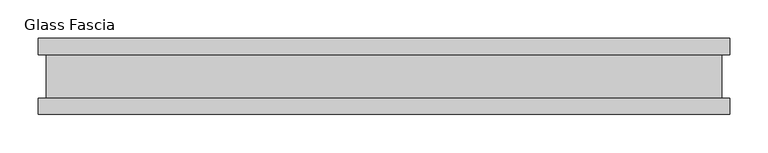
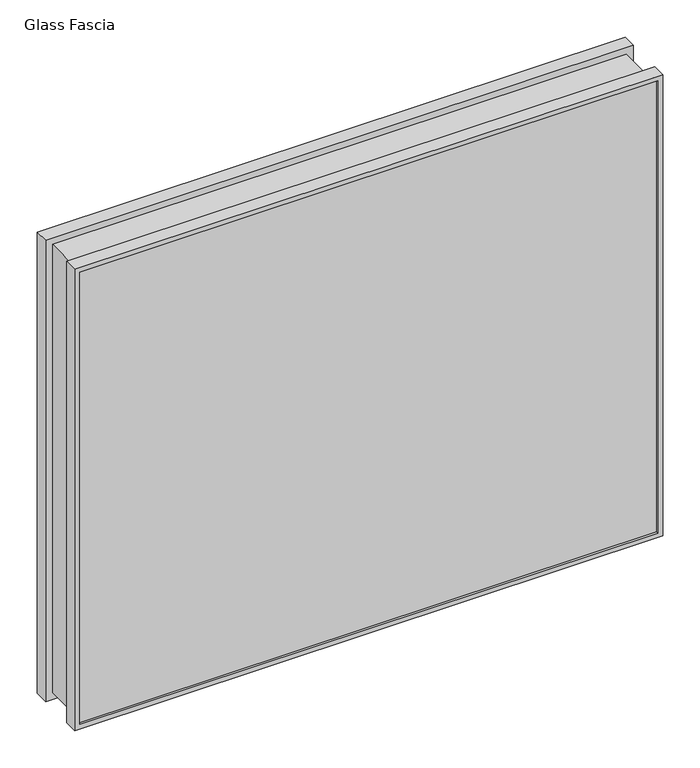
"""IFC4 building model written with IfcOpenShell, lengths in millimetres: proxy geometry, Panel-Fascia-Teknion-Altos-Glass : Glass Fascia."""

from ifc_helpers import new_model, si_unit, frame, origin, place, context, project, spatial, polyline, ellipse_curve, outline, extrude, source, transform, mapped, element, save
from ifc_brep_helpers import plane_surface, cylinder_surface, advanced_brep


def glass_fascia_7fd7f416(model_context):
    return source(origin(), model_context, "Body", "SolidModel", [
        advanced_brep(
        [(454.0619976, 50.0558594, 756.793), (454.0619976, 28.2698798, 756.793), (454.0619976, 28.2698798, 3.175), (454.0619976, 50.0558594, 3.175), (446.6267898, 47.1322551, 749.3577922), (446.6267898, 50.0558594, 749.3577922), (446.6267898, 50.0558594, 10.6102078), (446.6267898, 47.1322551, 10.6102078), (451.9094713, 41.1791301, 754.6404737), (451.9094713, 47.1322551, 754.6404737), (451.9094713, 47.1322551, 5.3275263), (451.9094713, 41.1791301, 5.3275263), (446.1045822, -40.9277344, 748.8355845), (446.1045822, 41.1791301, 748.8355845), (446.1045822, 41.1791301, 11.1324155), (446.1045822, -40.9277344, 11.1324155), (451.9094713, -46.8808594, 754.6404737), (451.9094713, -40.9277344, 754.6404737), (451.9094713, -40.9277344, 5.3275263), (451.9094713, -46.8808594, 5.3275263), (446.6267898, -50.0558594, 749.3577922), (446.6267898, -46.8808594, 749.3577922), (446.6267898, -46.8808594, 10.6102078), (446.6267898, -50.0558594, 10.6102078), (454.0619976, -28.8801202, 756.793), (454.0619976, -50.0558594, 756.793), (454.0619976, -50.0558594, 3.175), (454.0619976, -28.8801202, 3.175), (443.2101563, 28.2698798, 745.9411586), (443.2101563, -28.8801202, 745.9411586), (443.2101563, -28.8801202, 14.0268414), (443.2101563, 28.2698798, 14.0268414), (-454.0619976, 28.2698798, 3.175), (-454.0619976, 50.0558594, 3.175), (-446.6267898, 50.0558594, 10.6102078), (-446.6267898, 47.1322551, 10.6102078), (-451.9094713, 47.1322551, 5.3275263), (-451.9094713, 41.1791301, 5.3275263), (-446.1045822, 41.1791301, 11.1324155), (-446.1045822, -40.9277344, 11.1324155), (-451.9094713, -40.9277344, 5.3275263), (-451.9094713, -46.8808594, 5.3275263), (-446.6267898, -46.8808594, 10.6102078), (-446.6267898, -50.0558594, 10.6102078), (-454.0619976, -50.0558594, 3.175), (-454.0619976, -28.8801202, 3.175), (-443.2101563, -28.8801202, 14.0268414), (-443.2101563, 28.2698798, 14.0268414), (-454.0619976, 28.2698798, 756.793), (-454.0619976, 50.0558594, 756.793), (-446.6267898, 50.0558594, 749.3577922), (-446.6267898, 47.1322551, 749.3577922), (-451.9094713, 47.1322551, 754.6404737), (-451.9094713, 41.1791301, 754.6404737), (-446.1045822, 41.1791301, 748.8355845), (-446.1045822, -40.9277344, 748.8355845), (-451.9094713, -40.9277344, 754.6404737), (-451.9094713, -46.8808594, 754.6404737), (-446.6267898, -46.8808594, 749.3577922), (-446.6267898, -50.0558594, 749.3577922), (-454.0619976, -50.0558594, 756.793), (-454.0619976, -28.8801202, 756.793), (-443.2101563, -28.8801202, 745.9411586), (-443.2101563, 28.2698798, 745.9411586)],
        [
            (0, 1),
            (1, 2),
            (2, 3),
            (3, 0),
            (4, 5),
            (5, 6),
            (6, 7),
            (7, 4),
            (8, 9),
            (9, 10),
            (10, 11),
            (11, 8),
            (12, 13, ellipse_curve(frame((485.4904245, 0.1256979, 788.2214268), z_axis=(0.7071067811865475, 0.0, -0.7071067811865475), x_axis=(0.7071067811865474, 0.0, 0.7071067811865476)), 80.4565581, 56.8913778)),
            (13, 14),
            (14, 15, ellipse_curve(frame((485.4904245, 0.1256979, -28.2534268), z_axis=(0.7071067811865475, 0.0, 0.7071067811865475), x_axis=(-0.7071067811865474, 0.0, 0.7071067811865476)), 80.4565581, 56.8913778)),
            (15, 12),
            (16, 17),
            (17, 18),
            (18, 19),
            (19, 16),
            (20, 21),
            (21, 22),
            (22, 23),
            (23, 20),
            (24, 25),
            (25, 26),
            (26, 27),
            (27, 24),
            (28, 29),
            (29, 30),
            (30, 31),
            (31, 28),
            (2, 32),
            (32, 33),
            (33, 3),
            (6, 34),
            (34, 35),
            (35, 7),
            (10, 36),
            (36, 37),
            (37, 11),
            (14, 38),
            (38, 39, ellipse_curve(frame((-485.4904245, 0.1256979, -28.2534268), z_axis=(0.7071067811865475, 0.0, -0.7071067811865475), x_axis=(0.7071067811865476, 0.0, 0.7071067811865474)), 80.4565581, 56.8913778)),
            (39, 15),
            (18, 40),
            (40, 41),
            (41, 19),
            (22, 42),
            (42, 43),
            (43, 23),
            (26, 44),
            (44, 45),
            (45, 27),
            (30, 46),
            (46, 47),
            (47, 31),
            (32, 48),
            (48, 49),
            (49, 33),
            (34, 50),
            (50, 51),
            (51, 35),
            (36, 52),
            (52, 53),
            (53, 37),
            (38, 54),
            (54, 55, ellipse_curve(frame((-485.4904245, 0.1256979, 788.2214268), z_axis=(-0.7071067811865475, 0.0, -0.7071067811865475), x_axis=(0.7071067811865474, 0.0, -0.7071067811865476)), 80.4565581, 56.8913778)),
            (55, 39),
            (40, 56),
            (56, 57),
            (57, 41),
            (42, 58),
            (58, 59),
            (59, 43),
            (44, 60),
            (60, 61),
            (61, 45),
            (46, 62),
            (62, 63),
            (63, 47),
            (48, 1),
            (0, 49),
            (5, 50),
            (4, 51),
            (9, 52),
            (8, 53),
            (13, 54),
            (12, 55),
            (17, 56),
            (16, 57),
            (21, 58),
            (20, 59),
            (25, 60),
            (24, 61),
            (29, 62),
            (28, 63),
        ],
        [
            plane_surface(frame((454.0619976, 28.2698798, 756.793), z_axis=(1.0, 0.0, 0.0), x_axis=(0.0, 0.0, -1.0))),
            plane_surface(frame((446.6267898, 50.0558594, 749.3577922), z_axis=(-1.0, 0.0, 0.0), x_axis=(0.0, 0.0, -1.0))),
            plane_surface(frame((451.9094713, 47.1322551, 754.6404737), z_axis=(-1.0, 0.0, 0.0), x_axis=(0.0, 0.0, -1.0))),
            cylinder_surface(frame((485.4904245, 0.1256979, 756.793), z_axis=(0.0, 0.0, 1.0), x_axis=(1.0, 0.0, 0.0)), 56.8913778),
            plane_surface(frame((451.9094713, -40.9277344, 754.6404737), z_axis=(-1.0, 0.0, 0.0), x_axis=(0.0, 0.0, -1.0))),
            plane_surface(frame((446.6267898, -46.8808594, 749.3577922), z_axis=(-1.0, 0.0, 0.0), x_axis=(0.0, 0.0, -1.0))),
            plane_surface(frame((454.0619976, -50.0558594, 756.793), z_axis=(1.0, 0.0, 0.0), x_axis=(0.0, 0.0, -1.0))),
            plane_surface(frame((443.2101563, -28.8801202, 745.9411586), z_axis=(1.0, 0.0, 0.0), x_axis=(0.0, 0.0, -1.0))),
            plane_surface(frame((454.0619976, 28.2698798, 3.175), z_axis=(0.0, 0.0, -1.0), x_axis=(-1.0, 0.0, 0.0))),
            plane_surface(frame((446.6267898, 50.0558594, 10.6102078), z_axis=(0.0, 0.0, 1.0), x_axis=(-1.0, 0.0, 0.0))),
            plane_surface(frame((451.9094713, 47.1322551, 5.3275263), z_axis=(0.0, 0.0, 1.0), x_axis=(-1.0, 0.0, 0.0))),
            cylinder_surface(frame((454.0619976, 0.1256979, -28.2534268), z_axis=(1.0, 0.0, 0.0), x_axis=(0.0, 0.0, -1.0)), 56.8913778),
            plane_surface(frame((451.9094713, -40.9277344, 5.3275263), z_axis=(0.0, 0.0, 1.0), x_axis=(-1.0, 0.0, 0.0))),
            plane_surface(frame((446.6267898, -46.8808594, 10.6102078), z_axis=(0.0, 0.0, 1.0), x_axis=(-1.0, 0.0, 0.0))),
            plane_surface(frame((454.0619976, -50.0558594, 3.175), z_axis=(0.0, 0.0, -1.0), x_axis=(-1.0, 0.0, 0.0))),
            plane_surface(frame((443.2101563, -28.8801202, 14.0268414), z_axis=(0.0, 0.0, -1.0), x_axis=(-1.0, 0.0, 0.0))),
            plane_surface(frame((-454.0619976, 28.2698798, 3.175), z_axis=(-1.0, 0.0, 0.0), x_axis=(0.0, 0.0, 1.0))),
            plane_surface(frame((-446.6267898, 50.0558594, 10.6102078), z_axis=(1.0, 0.0, 0.0), x_axis=(0.0, 0.0, 1.0))),
            plane_surface(frame((-451.9094713, 47.1322551, 5.3275263), z_axis=(1.0, 0.0, 0.0), x_axis=(0.0, 0.0, 1.0))),
            cylinder_surface(frame((-485.4904245, 0.1256979, 3.175), z_axis=(0.0, 0.0, -1.0), x_axis=(-1.0, 0.0, 0.0)), 56.8913778),
            plane_surface(frame((-451.9094713, -40.9277344, 5.3275263), z_axis=(1.0, 0.0, 0.0), x_axis=(0.0, 0.0, 1.0))),
            plane_surface(frame((-446.6267898, -46.8808594, 10.6102078), z_axis=(1.0, 0.0, 0.0), x_axis=(0.0, 0.0, 1.0))),
            plane_surface(frame((-454.0619976, -50.0558594, 3.175), z_axis=(-1.0, 0.0, 0.0), x_axis=(0.0, 0.0, 1.0))),
            plane_surface(frame((-443.2101563, -28.8801202, 14.0268414), z_axis=(-1.0, 0.0, 0.0), x_axis=(0.0, 0.0, 1.0))),
            plane_surface(frame((-454.0619976, 28.2698798, 756.793), z_axis=(0.0, 0.0, 1.0), x_axis=(1.0, 0.0, 0.0))),
            plane_surface(frame((-454.0619976, 50.0558594, 756.793), z_axis=(0.0, 1.0, 0.0), x_axis=(1.0, 0.0, 0.0))),
            plane_surface(frame((-446.6267898, 50.0558594, 749.3577922), z_axis=(0.0, 0.0, -1.0), x_axis=(1.0, 0.0, 0.0))),
            plane_surface(frame((-446.6267898, 47.1322551, 749.3577922), z_axis=(0.0, -1.0, 0.0), x_axis=(1.0, 0.0, 0.0))),
            plane_surface(frame((-451.9094713, 47.1322551, 754.6404737), z_axis=(0.0, 0.0, -1.0), x_axis=(1.0, 0.0, 0.0))),
            plane_surface(frame((-451.9094713, 41.1791301, 754.6404737), z_axis=(0.0, 1.0, 0.0), x_axis=(1.0, 0.0, 0.0))),
            cylinder_surface(frame((-454.0619976, 0.1256979, 788.2214268), z_axis=(-1.0, 0.0, 0.0), x_axis=(0.0, 0.0, 1.0)), 56.8913778),
            plane_surface(frame((-446.1045822, -40.9277344, 748.8355845), z_axis=(0.0, -1.0, 0.0), x_axis=(1.0, 0.0, 0.0))),
            plane_surface(frame((-451.9094713, -40.9277344, 754.6404737), z_axis=(0.0, 0.0, -1.0), x_axis=(1.0, 0.0, 0.0))),
            plane_surface(frame((-451.9094713, -46.8808594, 754.6404737), z_axis=(0.0, 1.0, 0.0), x_axis=(1.0, 0.0, 0.0))),
            plane_surface(frame((-446.6267898, -46.8808594, 749.3577922), z_axis=(0.0, 0.0, -1.0), x_axis=(1.0, 0.0, 0.0))),
            plane_surface(frame((-446.6267898, -50.0558594, 749.3577922), z_axis=(0.0, -1.0, 0.0), x_axis=(1.0, 0.0, 0.0))),
            plane_surface(frame((-454.0619976, -50.0558594, 756.793), z_axis=(0.0, 0.0, 1.0), x_axis=(1.0, 0.0, 0.0))),
            plane_surface(frame((-454.0619976, -28.8801202, 756.793), z_axis=(0.0, 1.0, 0.0), x_axis=(1.0, 0.0, 0.0))),
            plane_surface(frame((-443.2101563, -28.8801202, 745.9411586), z_axis=(0.0, 0.0, 1.0), x_axis=(1.0, 0.0, 0.0))),
            plane_surface(frame((-443.2101563, 28.2698798, 745.9411586), z_axis=(0.0, -1.0, 0.0), x_axis=(1.0, 0.0, 0.0))),
        ],
        [
            (0, [[1, 2, 3, 4]]),
            (1, [[5, 6, 7, 8]]),
            (2, [[9, 10, 11, 12]]),
            (3, [[13, 14, 15, 16]]),
            (4, [[17, 18, 19, 20]]),
            (5, [[21, 22, 23, 24]]),
            (6, [[25, 26, 27, 28]]),
            (7, [[29, 30, 31, 32]]),
            (8, [[-3, 33, 34, 35]]),
            (9, [[-7, 36, 37, 38]]),
            (10, [[-11, 39, 40, 41]]),
            (11, [[-15, 42, 43, 44]]),
            (12, [[-19, 45, 46, 47]]),
            (13, [[-23, 48, 49, 50]]),
            (14, [[-27, 51, 52, 53]]),
            (15, [[-31, 54, 55, 56]]),
            (16, [[-34, 57, 58, 59]]),
            (17, [[-37, 60, 61, 62]]),
            (18, [[-40, 63, 64, 65]]),
            (19, [[-43, 66, 67, 68]]),
            (20, [[-46, 69, 70, 71]]),
            (21, [[-49, 72, 73, 74]]),
            (22, [[-52, 75, 76, 77]]),
            (23, [[-55, 78, 79, 80]]),
            (24, [[-58, 81, -1, 82]]),
            (25, [[-35, -59, -82, -4], [83, -60, -36, -6]]),
            (26, [[-61, -83, -5, 84]]),
            (27, [[85, -63, -39, -10], [-38, -62, -84, -8]]),
            (28, [[-64, -85, -9, 86]]),
            (29, [[-41, -65, -86, -12], [87, -66, -42, -14]]),
            (30, [[-67, -87, -13, 88]]),
            (31, [[89, -69, -45, -18], [-44, -68, -88, -16]]),
            (32, [[-70, -89, -17, 90]]),
            (33, [[-47, -71, -90, -20], [91, -72, -48, -22]]),
            (34, [[-73, -91, -21, 92]]),
            (35, [[93, -75, -51, -26], [-50, -74, -92, -24]]),
            (36, [[-76, -93, -25, 94]]),
            (37, [[-53, -77, -94, -28], [95, -78, -54, -30]]),
            (38, [[-79, -95, -29, 96]]),
            (39, [[-81, -57, -33, -2], [-56, -80, -96, -32]]),
        ],
    ),
        extrude(outline(polyline([(451.9094713, -40.9277344), (451.9094713, -46.8808594), (-451.9094713, -46.8808594), (-451.9094713, -40.9277344), (451.9094713, -40.9277344)])), frame((0.0, 0.0, 5.3275263), z_axis=(0.0, 0.0, 1.0), x_axis=(1.0, 0.0, 0.0)), (0.0, 0.0, 1.0), 748.818928),
        extrude(outline(polyline([(451.9094713, 41.1791301), (-451.9094713, 41.1791301), (-451.9094713, 47.1322551), (451.9094713, 47.1322551), (451.9094713, 41.1791301)])), frame((0.0, 0.0, 5.3275263), z_axis=(0.0, 0.0, 1.0), x_axis=(1.0, 0.0, 0.0)), (0.0, 0.0, 1.0), 748.818928),
    ])


if __name__ == "__main__":
    model = new_model("IFC4")
    model_context = context("Model", 3, world=origin())
    ifc_project = project(units=[si_unit("LENGTHUNIT", "METRE", prefix="MILLI")], contexts=[model_context])
    site = spatial("IfcSite", under=ifc_project)
    building = spatial("IfcBuilding", under=site)
    placement = place(None, origin())
    glass_fascia_shape = glass_fascia_7fd7f416(model_context)
    element("IfcBuildingElementProxy", 1, Name="Panel-Fascia-Teknion-Altos-Glass : Glass Fascia", ObjectType="Panel-Fascia-Teknion-Altos-Glass : Glass Fascia", at=placement, inside=building, context=model_context, shape_type="MappedRepresentation", body=[
        mapped(glass_fascia_shape, transform((0.0, 0.0, 0.0), x_axis=(1.0, 0.0, 0.0), y_axis=(0.0, 1.0, 0.0), z_axis=(0.0, 0.0, 1.0))),
    ])
    save(model, "model.ifc")
